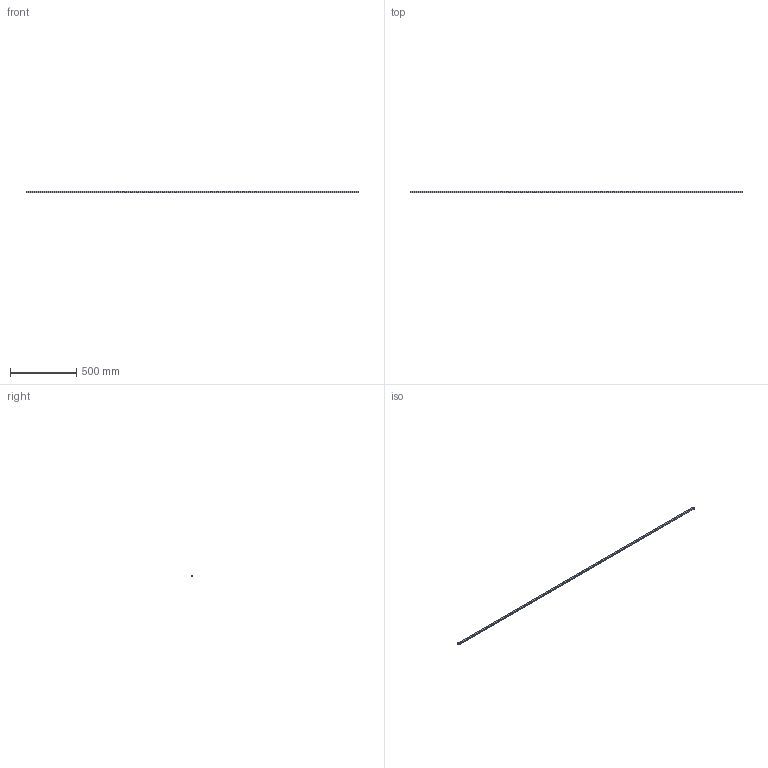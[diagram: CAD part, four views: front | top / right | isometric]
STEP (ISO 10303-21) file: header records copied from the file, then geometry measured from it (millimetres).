
FILE_DESCRIPTION(/* description */ (''),/* implementation_level */ '2;1');
FILE_NAME(/* name */ '1777899_Glaskantenleucht_sldprt.stp',/* time_stamp */ '2019-06-11T14:08:11+02:00',/* author */ (''),/* organization */ (''),/* preprocessor_version */ 'ST-DEVELOPER v16.7',/* originating_system */ 'SIEMENS PLM Software NX 12.0',/* authorisation */ '');
FILE_SCHEMA (('AUTOMOTIVE_DESIGN { 1 0 10303 214 3 1 1 1 }'));
Length unit declared in the file: millimetre
Products named in the file (1): p.sc21B4B528x4z3
Bounding box: 2500 x 13.3 x 11.2 mm (x, y, z)
Volume: 114206.9 mm3; surface area: 180016.1 mm2
Topology: 1 solids, 1 shells, 18 faces, 48 edges, 32 vertices
Faces by surface type: plane 10, cylinder 8
Entity records: 600 total; most frequent: DIRECTION 102, CARTESIAN_POINT 99, ORIENTED_EDGE 96, EDGE_CURVE 48, AXIS2_PLACEMENT_3D 35, LINE 32, VECTOR 32, VERTEX_POINT 32
